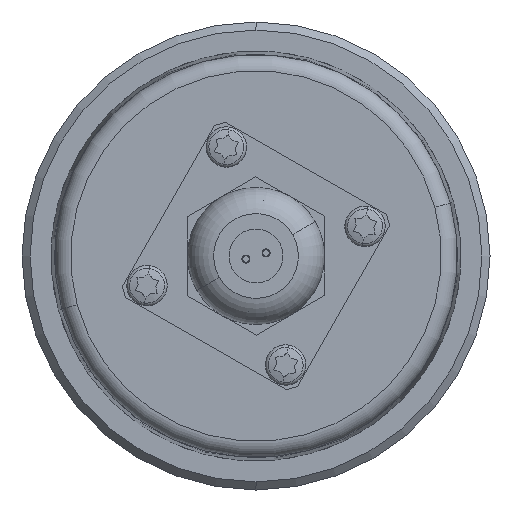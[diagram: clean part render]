
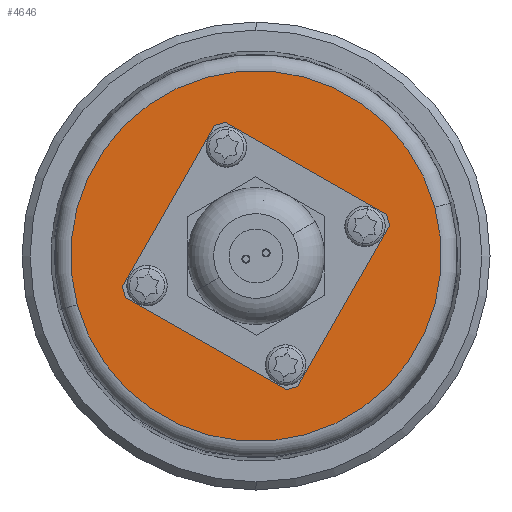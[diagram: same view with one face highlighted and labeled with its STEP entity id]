
A CAD part, left-side view. The second image highlights one B-rep face of the part: STEP entity #4646.
In plain terms, the highlighted planar face has unit normal (-1, 0, 0).
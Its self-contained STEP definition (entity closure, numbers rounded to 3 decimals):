
#3978 = VERTEX_POINT ( 'NONE', #19392 ) ;
#3980 = VERTEX_POINT ( 'NONE', #19387 ) ;
#3982 = EDGE_CURVE ( 'NONE', #3983, #3980, #19386, .T. ) ;
#3983 = VERTEX_POINT ( 'NONE', #19381 ) ;
#4018 = EDGE_CURVE ( 'NONE', #4026, #4073, #19537, .T. ) ;
#4026 = VERTEX_POINT ( 'NONE', #19561 ) ;
#4027 = VERTEX_POINT ( 'NONE', #19560 ) ;
#4030 = VERTEX_POINT ( 'NONE', #19559 ) ;
#4040 = EDGE_CURVE ( 'NONE', #4041, #4054, #19584, .T. ) ;
#4041 = VERTEX_POINT ( 'NONE', #19579 ) ;
#4054 = VERTEX_POINT ( 'NONE', #19644 ) ;
#4055 = EDGE_CURVE ( 'NONE', #3978, #4030, #19643, .T. ) ;
#4073 = VERTEX_POINT ( 'NONE', #19707 ) ;
#4093 = EDGE_CURVE ( 'NONE', #4094, #4027, #19774, .T. ) ;
#4094 = VERTEX_POINT ( 'NONE', #19769 ) ;
#4331 = VERTEX_POINT ( 'NONE', #20548 ) ;
#4375 = VERTEX_POINT ( 'NONE', #20711 ) ;
#4377 = EDGE_CURVE ( 'NONE', #4375, #4331, #20708, .T. ) ;
#4646 = ADVANCED_FACE ( 'NONE', ( #21520, #21519, #21518, #21517, #21516, #21515 ), #21499, .F. ) ;
#4650 = ORIENTED_EDGE ( 'NONE', *, *, #4055, .T. ) ;
#4652 = EDGE_CURVE ( 'NONE', #4054, #4041, #21553, .T. ) ;
#4653 = EDGE_LOOP ( 'NONE', ( #4650, #4663 ) ) ;
#4657 = ORIENTED_EDGE ( 'NONE', *, *, #4018, .T. ) ;
#4658 = ORIENTED_EDGE ( 'NONE', *, *, #4040, .T. ) ;
#4659 = ORIENTED_EDGE ( 'NONE', *, *, #4652, .T. ) ;
#4663 = ORIENTED_EDGE ( 'NONE', *, *, #4670, .T. ) ;
#4664 = EDGE_CURVE ( 'NONE', #4073, #4026, #21526, .T. ) ;
#4665 = ORIENTED_EDGE ( 'NONE', *, *, #4664, .T. ) ;
#4666 = EDGE_LOOP ( 'NONE', ( #4658, #4659 ) ) ;
#4667 = EDGE_LOOP ( 'NONE', ( #4705, #4717 ) ) ;
#4669 = EDGE_LOOP ( 'NONE', ( #4657, #4665 ) ) ;
#4670 = EDGE_CURVE ( 'NONE', #4030, #3978, #21614, .T. ) ;
#4700 = ORIENTED_EDGE ( 'NONE', *, *, #4709, .T. ) ;
#4705 = ORIENTED_EDGE ( 'NONE', *, *, #3982, .T. ) ;
#4708 = EDGE_LOOP ( 'NONE', ( #4715, #4780 ) ) ;
#4709 = EDGE_CURVE ( 'NONE', #4027, #4094, #21786, .T. ) ;
#4710 = EDGE_CURVE ( 'NONE', #4331, #4375, #21782, .T. ) ;
#4711 = ORIENTED_EDGE ( 'NONE', *, *, #4093, .T. ) ;
#4712 = EDGE_LOOP ( 'NONE', ( #4700, #4711 ) ) ;
#4715 = ORIENTED_EDGE ( 'NONE', *, *, #4710, .F. ) ;
#4716 = EDGE_CURVE ( 'NONE', #3980, #3983, #21776, .T. ) ;
#4717 = ORIENTED_EDGE ( 'NONE', *, *, #4716, .T. ) ;
#4780 = ORIENTED_EDGE ( 'NONE', *, *, #4377, .F. ) ;
#19381 = CARTESIAN_POINT ( 'NONE',  ( -21., -14.85, 4.039 ) ) ;
#19382 = DIRECTION ( 'NONE',  ( 0., 0.965, -0.262 ) ) ;
#19383 = DIRECTION ( 'NONE',  ( 1., 0., 0. ) ) ;
#19384 = CARTESIAN_POINT ( 'NONE',  ( -21., -13.51, 3.675 ) ) ;
#19385 = AXIS2_PLACEMENT_3D ( 'NONE', #19384, #19383, #19382 ) ;
#19386 = CIRCLE ( 'NONE', #19385, 1.389 ) ;
#19387 = CARTESIAN_POINT ( 'NONE',  ( -21., -12.17, 3.31 ) ) ;
#19392 = CARTESIAN_POINT ( 'NONE',  ( -21., 2.335, 13.874 ) ) ;
#19533 = DIRECTION ( 'NONE',  ( 0., 0.965, -0.262 ) ) ;
#19534 = DIRECTION ( 'NONE',  ( 1., 0., 0. ) ) ;
#19535 = CARTESIAN_POINT ( 'NONE',  ( -21., 13.51, -3.675 ) ) ;
#19536 = AXIS2_PLACEMENT_3D ( 'NONE', #19535, #19534, #19533 ) ;
#19537 = CIRCLE ( 'NONE', #19536, 1.389 ) ;
#19559 = CARTESIAN_POINT ( 'NONE',  ( -21., 5.015, 13.145 ) ) ;
#19560 = CARTESIAN_POINT ( 'NONE',  ( -21., 22.167, -6.03 ) ) ;
#19561 = CARTESIAN_POINT ( 'NONE',  ( -21., 12.17, -3.31 ) ) ;
#19579 = CARTESIAN_POINT ( 'NONE',  ( -21., -5.015, -13.145 ) ) ;
#19580 = DIRECTION ( 'NONE',  ( 0., 0.965, -0.262 ) ) ;
#19581 = DIRECTION ( 'NONE',  ( 1., 0., 0. ) ) ;
#19582 = CARTESIAN_POINT ( 'NONE',  ( -21., -3.675, -13.51 ) ) ;
#19583 = AXIS2_PLACEMENT_3D ( 'NONE', #19582, #19581, #19580 ) ;
#19584 = CIRCLE ( 'NONE', #19583, 1.389 ) ;
#19639 = DIRECTION ( 'NONE',  ( 0., 0.965, -0.262 ) ) ;
#19640 = DIRECTION ( 'NONE',  ( 1., 0., 0. ) ) ;
#19641 = CARTESIAN_POINT ( 'NONE',  ( -21., 3.675, 13.51 ) ) ;
#19642 = AXIS2_PLACEMENT_3D ( 'NONE', #19641, #19640, #19639 ) ;
#19643 = CIRCLE ( 'NONE', #19642, 1.389 ) ;
#19644 = CARTESIAN_POINT ( 'NONE',  ( -21., -2.335, -13.874 ) ) ;
#19707 = CARTESIAN_POINT ( 'NONE',  ( -21., 14.85, -4.039 ) ) ;
#19769 = CARTESIAN_POINT ( 'NONE',  ( -21., -22.167, 6.03 ) ) ;
#19770 = DIRECTION ( 'NONE',  ( 0., 0.965, -0.262 ) ) ;
#19771 = DIRECTION ( 'NONE',  ( -1., 0., 0. ) ) ;
#19772 = CARTESIAN_POINT ( 'NONE',  ( -21., 0., 0. ) ) ;
#19773 = AXIS2_PLACEMENT_3D ( 'NONE', #19772, #19771, #19770 ) ;
#19774 = CIRCLE ( 'NONE', #19773, 22.972 ) ;
#20548 = CARTESIAN_POINT ( 'NONE',  ( -21., -11.097, 3.018 ) ) ;
#20704 = DIRECTION ( 'NONE',  ( 0., -0.965, 0.262 ) ) ;
#20705 = DIRECTION ( 'NONE',  ( -1., 0., 0. ) ) ;
#20706 = CARTESIAN_POINT ( 'NONE',  ( -21., 0., 0. ) ) ;
#20707 = AXIS2_PLACEMENT_3D ( 'NONE', #20706, #20705, #20704 ) ;
#20708 = CIRCLE ( 'NONE', #20707, 11.5 ) ;
#20711 = CARTESIAN_POINT ( 'NONE',  ( -21., 11.097, -3.018 ) ) ;
#21494 = DIRECTION ( 'NONE',  ( 0., 0.965, -0.262 ) ) ;
#21495 = DIRECTION ( 'NONE',  ( 1., 0., 0. ) ) ;
#21496 = CARTESIAN_POINT ( 'NONE',  ( -21., 0., 0. ) ) ;
#21497 = AXIS2_PLACEMENT_3D ( 'NONE', #21496, #21495, #21494 ) ;
#21498 = CARTESIAN_POINT ( 'NONE',  ( -21., -3.675, -13.51 ) ) ;
#21499 = PLANE ( 'NONE',  #21497 ) ;
#21515 = FACE_BOUND ( 'NONE', #4708, .T. ) ;
#21516 = FACE_OUTER_BOUND ( 'NONE', #4712, .T. ) ;
#21517 = FACE_BOUND ( 'NONE', #4667, .T. ) ;
#21518 = FACE_BOUND ( 'NONE', #4653, .T. ) ;
#21519 = FACE_BOUND ( 'NONE', #4666, .T. ) ;
#21520 = FACE_BOUND ( 'NONE', #4669, .T. ) ;
#21526 = CIRCLE ( 'NONE', #21577, 1.389 ) ;
#21550 = DIRECTION ( 'NONE',  ( 0., 0.965, -0.262 ) ) ;
#21551 = DIRECTION ( 'NONE',  ( 1., 0., 0. ) ) ;
#21552 = AXIS2_PLACEMENT_3D ( 'NONE', #21498, #21551, #21550 ) ;
#21553 = CIRCLE ( 'NONE', #21552, 1.389 ) ;
#21574 = DIRECTION ( 'NONE',  ( 0., 0.965, -0.262 ) ) ;
#21575 = DIRECTION ( 'NONE',  ( 1., 0., 0. ) ) ;
#21576 = CARTESIAN_POINT ( 'NONE',  ( -21., 13.51, -3.675 ) ) ;
#21577 = AXIS2_PLACEMENT_3D ( 'NONE', #21576, #21575, #21574 ) ;
#21610 = DIRECTION ( 'NONE',  ( 0., 0.965, -0.262 ) ) ;
#21611 = DIRECTION ( 'NONE',  ( 1., 0., 0. ) ) ;
#21612 = CARTESIAN_POINT ( 'NONE',  ( -21., 3.675, 13.51 ) ) ;
#21613 = AXIS2_PLACEMENT_3D ( 'NONE', #21612, #21611, #21610 ) ;
#21614 = CIRCLE ( 'NONE', #21613, 1.389 ) ;
#21772 = DIRECTION ( 'NONE',  ( 0., 0.965, -0.262 ) ) ;
#21773 = DIRECTION ( 'NONE',  ( 1., 0., 0. ) ) ;
#21774 = CARTESIAN_POINT ( 'NONE',  ( -21., -13.51, 3.675 ) ) ;
#21775 = AXIS2_PLACEMENT_3D ( 'NONE', #21774, #21773, #21772 ) ;
#21776 = CIRCLE ( 'NONE', #21775, 1.389 ) ;
#21778 = DIRECTION ( 'NONE',  ( 0., -0.965, 0.262 ) ) ;
#21779 = DIRECTION ( 'NONE',  ( -1., 0., 0. ) ) ;
#21780 = CARTESIAN_POINT ( 'NONE',  ( -21., 0., 0. ) ) ;
#21781 = AXIS2_PLACEMENT_3D ( 'NONE', #21780, #21779, #21778 ) ;
#21782 = CIRCLE ( 'NONE', #21781, 11.5 ) ;
#21783 = DIRECTION ( 'NONE',  ( 0., 0.965, -0.262 ) ) ;
#21784 = DIRECTION ( 'NONE',  ( -1., 0., 0. ) ) ;
#21785 = AXIS2_PLACEMENT_3D ( 'NONE', #21791, #21784, #21783 ) ;
#21786 = CIRCLE ( 'NONE', #21785, 22.972 ) ;
#21791 = CARTESIAN_POINT ( 'NONE',  ( -21., 0., 0. ) ) ;
